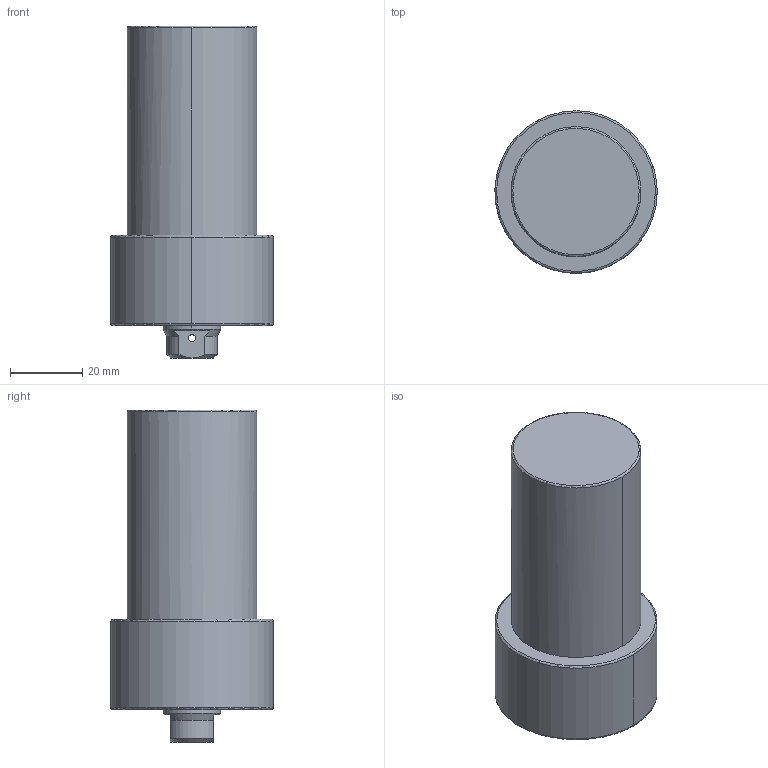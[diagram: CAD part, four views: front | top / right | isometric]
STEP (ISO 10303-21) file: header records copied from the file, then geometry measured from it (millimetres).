
FILE_DESCRIPTION((' '),'2;1');
FILE_NAME( 'TLLU-036GB-050.STEP.stp', '2025-10-24T16:37:06', (' '), ('--- Datakit www.datakit.com---'), ' Datakit CrossCadWare V2024.1 Dec 21 2023', 'Mastercam 2025', ' ');
FILE_SCHEMA(('AUTOMOTIVE_DESIGN { 1 0 10303 214 1 1 1 1 }'));
Length unit declared in the file: millimetre
Products named in the file (1): TLLU-036GB-050
Bounding box: 44.99 x 45 x 92 mm (x, y, z)
Volume: 99181.2 mm3; surface area: 14424 mm2
Topology: 1 solids, 1 shells, 66 faces, 192 edges, 125 vertices
Faces by surface type: cylinder 26, cone 24, plane 10, torus 6
Entity records: 2820 total; most frequent: CARTESIAN_POINT 1010, DIRECTION 412, ORIENTED_EDGE 364, EDGE_CURVE 182, AXIS2_PLACEMENT_3D 179, VERTEX_POINT 125, CIRCLE 112, EDGE_LOOP 77
